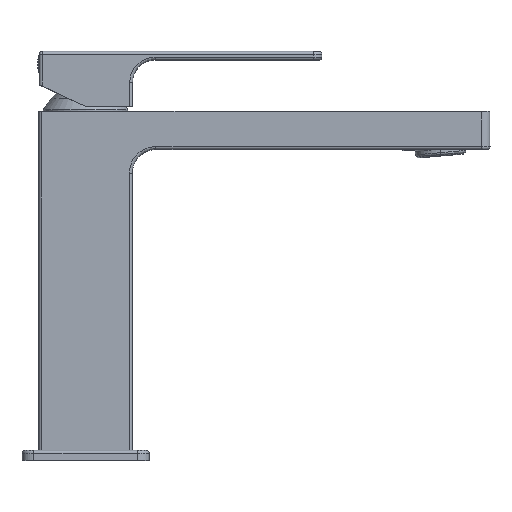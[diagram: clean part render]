
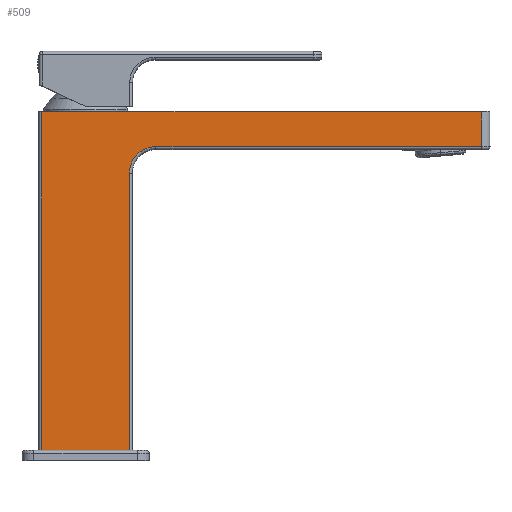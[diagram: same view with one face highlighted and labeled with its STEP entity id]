
A CAD part, top view. The second image highlights one B-rep face of the part: STEP entity #509.
In plain terms, the highlighted planar face has unit normal (0, 0, 1).
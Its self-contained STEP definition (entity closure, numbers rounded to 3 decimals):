
#109=CARTESIAN_POINT('',(-48.984,0.0,16.5));
#110=VERTEX_POINT('',#109);
#171=CARTESIAN_POINT('',(-17.984,0.0,16.5));
#172=VERTEX_POINT('',#171);
#180=CARTESIAN_POINT('',(-48.984,0.0,16.5));
#181=DIRECTION('',(1.0,0.0,0.0));
#182=VECTOR('',#181,31.0);
#183=LINE('',#180,#182);
#184=EDGE_CURVE('',#110,#172,#183,.T.);
#454=CARTESIAN_POINT('',(-65.942,-12.,16.5));
#455=DIRECTION('',(0.0,0.0,1.0));
#456=DIRECTION('',(1.0,0.0,0.0));
#457=AXIS2_PLACEMENT_3D('',#454,#455,#456);
#458=PLANE('',#457);
#459=CARTESIAN_POINT('',(-17.984,98.1,16.5));
#460=VERTEX_POINT('',#459);
#461=CARTESIAN_POINT('',(-17.984,98.1,16.5));
#462=DIRECTION('',(0.0,-1.0,0.0));
#463=VECTOR('',#462,98.1);
#464=LINE('',#461,#463);
#465=EDGE_CURVE('',#460,#172,#464,.T.);
#466=ORIENTED_EDGE('',*,*,#465,.F.);
#467=CARTESIAN_POINT('',(-8.584,107.5,16.5));
#468=VERTEX_POINT('',#467);
#469=CARTESIAN_POINT('',(-8.584,98.1,16.5));
#470=DIRECTION('',(0.0,0.0,-1.0));
#471=DIRECTION('',(-1.0,0.,0.0));
#472=AXIS2_PLACEMENT_3D('',#469,#470,#471);
#473=CIRCLE('',#472,9.4);
#474=EDGE_CURVE('',#460,#468,#473,.T.);
#475=ORIENTED_EDGE('',*,*,#474,.T.);
#476=CARTESIAN_POINT('',(106.586,107.5,16.5));
#477=VERTEX_POINT('',#476);
#478=CARTESIAN_POINT('',(106.586,107.5,16.5));
#479=DIRECTION('',(-1.0,0.,0.));
#480=VECTOR('',#479,115.171);
#481=LINE('',#478,#480);
#482=EDGE_CURVE('',#477,#468,#481,.T.);
#483=ORIENTED_EDGE('',*,*,#482,.F.);
#484=CARTESIAN_POINT('',(106.586,119.8,16.5));
#485=VERTEX_POINT('',#484);
#486=CARTESIAN_POINT('',(106.586,119.8,16.5));
#487=DIRECTION('',(0.0,-1.,0.));
#488=VECTOR('',#487,12.3);
#489=LINE('',#486,#488);
#490=EDGE_CURVE('',#485,#477,#489,.T.);
#491=ORIENTED_EDGE('',*,*,#490,.F.);
#492=CARTESIAN_POINT('',(-48.984,119.8,16.5));
#493=VERTEX_POINT('',#492);
#494=CARTESIAN_POINT('',(-48.984,119.8,16.5));
#495=DIRECTION('',(1.,0.,0.));
#496=VECTOR('',#495,155.571);
#497=LINE('',#494,#496);
#498=EDGE_CURVE('',#493,#485,#497,.T.);
#499=ORIENTED_EDGE('',*,*,#498,.F.);
#500=CARTESIAN_POINT('',(-48.984,0.0,16.5));
#501=DIRECTION('',(0.0,1.,0.));
#502=VECTOR('',#501,119.8);
#503=LINE('',#500,#502);
#504=EDGE_CURVE('',#110,#493,#503,.T.);
#505=ORIENTED_EDGE('',*,*,#504,.F.);
#506=ORIENTED_EDGE('',*,*,#184,.T.);
#507=EDGE_LOOP('',(#466,#475,#483,#491,#499,#505,#506));
#508=FACE_OUTER_BOUND('',#507,.T.);
#509=ADVANCED_FACE('',(#508),#458,.T.);
